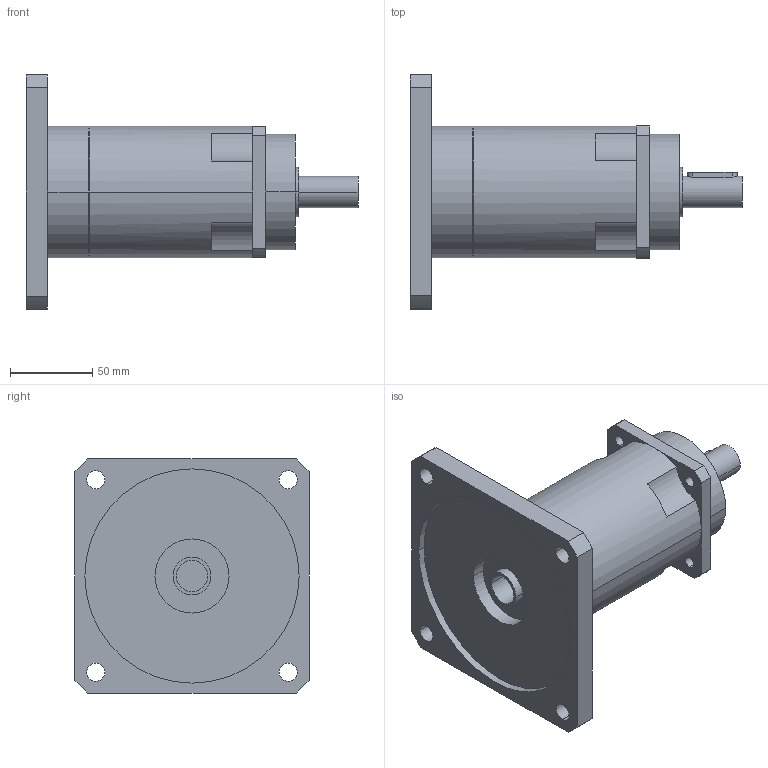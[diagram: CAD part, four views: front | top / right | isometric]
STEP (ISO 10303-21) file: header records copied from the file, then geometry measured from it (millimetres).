
FILE_DESCRIPTION(('CoCreate Modeling STEP Export'),'2;1');
FILE_NAME('GPR100_ig-48-64-80-100-120-144-180-216_19_B5_19_P16.stp','2014-08-26T11:56:56',(''),(''),'CoCreate Modeling STEP processor for AP214 (Solid Model)','CoCreate Modeling 16.00C 25-Feb-2009 (C) Parametric Technology GmbH','');
FILE_SCHEMA(('AUTOMOTIVE_DESIGN { 1 0 10303 214 1 1 1 1 }'));
Length unit declared in the file: millimetre
Products named in the file (2): GPR100_ig-48-64-80-100-120-144-180-216_19_B5_19_P16
Assembly tree (1 placements, depth 2):
  GPR100_ig-48-64-80-100-120-144-180-216_19_B5_19_P16
    GPR100_ig-48-64-80-100-120-144-180-216_19_B5_19_P16
Bounding box: 201.4 x 142 x 142 mm (x, y, z)
Volume: 922122.7 mm3; surface area: 98269.1 mm2
Topology: 1 solids, 1 shells, 86 faces, 240 edges, 164 vertices
Faces by surface type: cylinder 50, plane 30, cone 6
Entity records: 2542 total; most frequent: ORIENTED_EDGE 476, CARTESIAN_POINT 463, DIRECTION 376, EDGE_CURVE 238, VERTEX_POINT 164, AXIS2_PLACEMENT_3D 141, EDGE_LOOP 112, VECTOR 94
